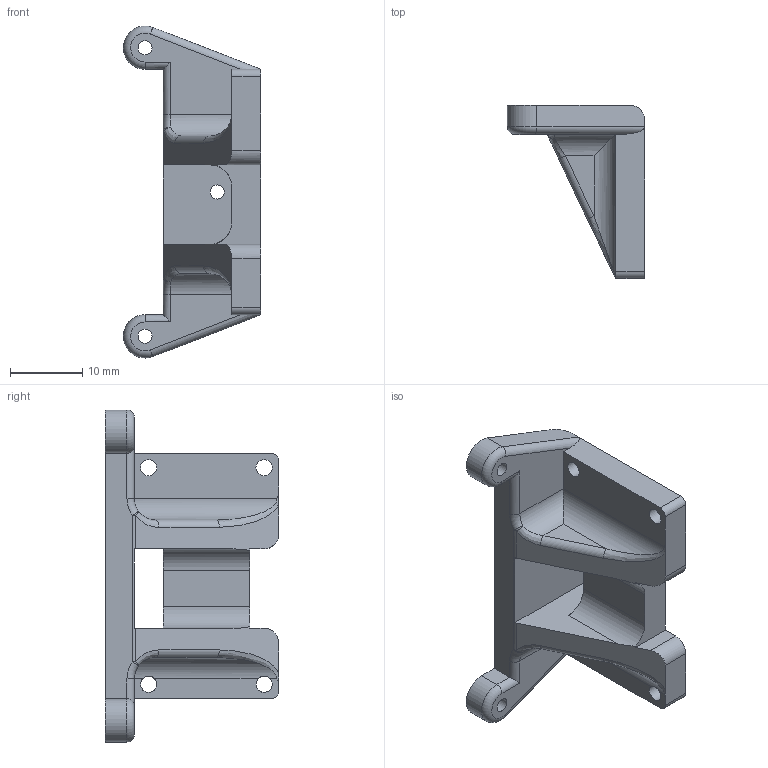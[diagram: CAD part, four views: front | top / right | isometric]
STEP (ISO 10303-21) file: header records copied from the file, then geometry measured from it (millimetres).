
FILE_DESCRIPTION(/* description */ (''),/* implementation_level */ '2;1');
FILE_NAME(/* name */ 'motor stand 2 v12.step',/* time_stamp */ '2025-07-16T17:45:38+08:00',/* author */ (''),/* organization */ (''),/* preprocessor_version */ 'ST-DEVELOPER v20.1',/* originating_system */ 'Autodesk Translation Framework v14.10.0.0',/* authorisation */ '');
FILE_SCHEMA (('AUTOMOTIVE_DESIGN { 1 0 10303 214 3 1 1 }'));
Length unit declared in the file: millimetre
Products named in the file (1): motor stand 2
Bounding box: 18.99 x 24.02 x 46 mm (x, y, z)
Volume: 5463.3 mm3; surface area: 3451.5 mm2
Topology: 1 solids, 1 shells, 66 faces, 179 edges, 112 vertices
Faces by surface type: cylinder 29, plane 27, bspline 4, torus 4, sphere 2
Full cylindrical faces by diameter (mm): 1.95 x3, 2.25 x4
Entity records: 2311 total; most frequent: CARTESIAN_POINT 547, DIRECTION 373, ORIENTED_EDGE 358, EDGE_CURVE 179, AXIS2_PLACEMENT_3D 137, VERTEX_POINT 112, LINE 99, VECTOR 99
